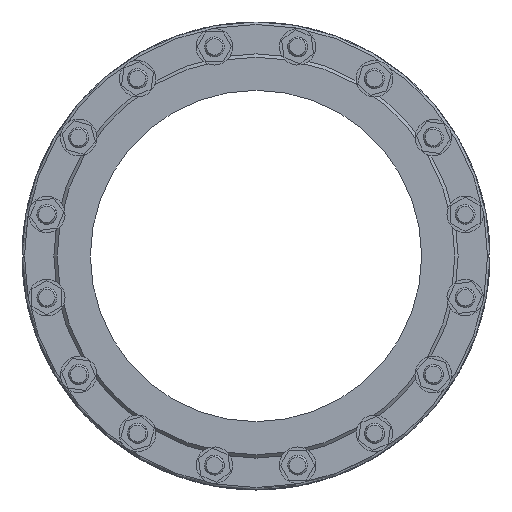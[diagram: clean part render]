
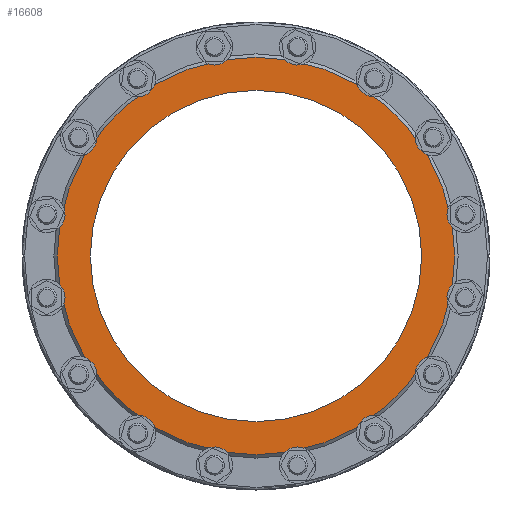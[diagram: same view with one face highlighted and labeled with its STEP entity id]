
A CAD part, left-side view. The second image highlights one B-rep face of the part: STEP entity #16608.
In plain terms, the highlighted planar face has unit normal (-1, 0, 0).
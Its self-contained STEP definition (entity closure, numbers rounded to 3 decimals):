
#231 = PLANE ( 'NONE',  #9223 ) ;
#3138 = CARTESIAN_POINT ( 'NONE',  ( -13., 0., -200. ) ) ;
#3757 = ORIENTED_EDGE ( 'NONE', *, *, #17818, .T. ) ;
#3990 = VERTEX_POINT ( 'NONE', #14812 ) ;
#6628 = CARTESIAN_POINT ( 'NONE',  ( -13., 0., 0. ) ) ;
#7133 = DIRECTION ( 'NONE',  ( 1., 0., 0. ) ) ;
#9090 = FACE_OUTER_BOUND ( 'NONE', #11270, .T. ) ;
#9223 = AXIS2_PLACEMENT_3D ( 'NONE', #17402, #7133, #17666 ) ;
#9227 = FACE_BOUND ( 'NONE', #12471, .T. ) ;
#9645 = CARTESIAN_POINT ( 'NONE',  ( -13., 0., 0. ) ) ;
#10091 = AXIS2_PLACEMENT_3D ( 'NONE', #6628, #23487, #13350 ) ;
#11270 = EDGE_LOOP ( 'NONE', ( #3757 ) ) ;
#12442 = AXIS2_PLACEMENT_3D ( 'NONE', #9645, #18228, #26809 ) ;
#12471 = EDGE_LOOP ( 'NONE', ( #27172 ) ) ;
#13350 = DIRECTION ( 'NONE',  ( 0., 0., -1. ) ) ;
#13883 = EDGE_CURVE ( 'NONE', #27040, #27040, #21770, .T. ) ;
#14223 = CIRCLE ( 'NONE', #12442, 240. ) ;
#14812 = CARTESIAN_POINT ( 'NONE',  ( -13., 0., 240. ) ) ;
#16608 = ADVANCED_FACE ( 'NONE', ( #9227, #9090 ), #231, .F. ) ;
#17402 = CARTESIAN_POINT ( 'NONE',  ( -13., 200., 0. ) ) ;
#17666 = DIRECTION ( 'NONE',  ( 0., 0., -1. ) ) ;
#17818 = EDGE_CURVE ( 'NONE', #3990, #3990, #14223, .T. ) ;
#18228 = DIRECTION ( 'NONE',  ( -1., 0., 0. ) ) ;
#21770 = CIRCLE ( 'NONE', #10091, 200. ) ;
#23487 = DIRECTION ( 'NONE',  ( 1., 0., 0. ) ) ;
#26809 = DIRECTION ( 'NONE',  ( 0., 0., 1. ) ) ;
#27040 = VERTEX_POINT ( 'NONE', #3138 ) ;
#27172 = ORIENTED_EDGE ( 'NONE', *, *, #13883, .T. ) ;
